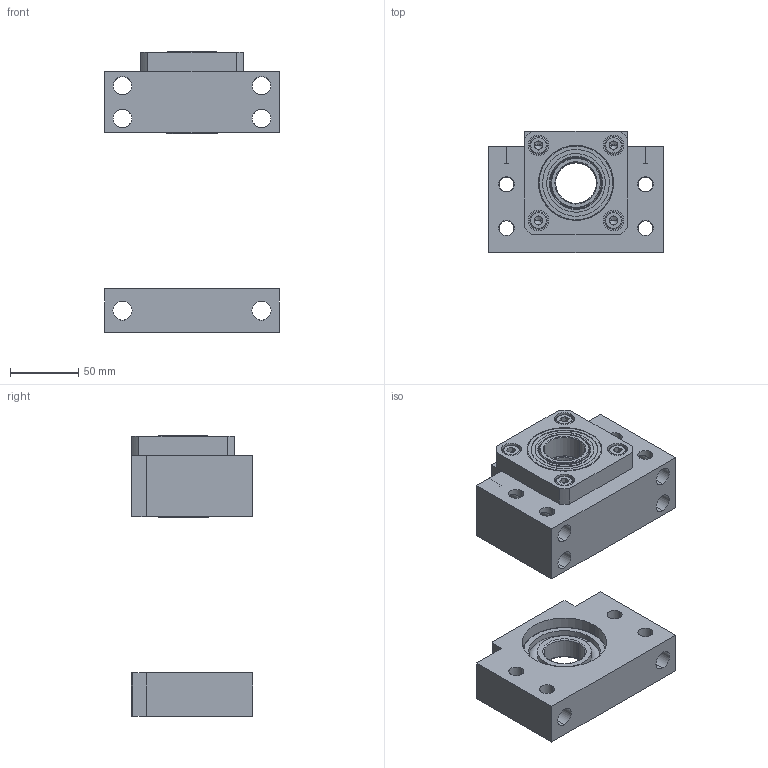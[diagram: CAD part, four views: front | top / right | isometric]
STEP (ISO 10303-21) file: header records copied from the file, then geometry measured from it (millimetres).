
FILE_DESCRIPTION (( 'STEP AP203' ), '1' );
FILE_NAME ('MANCAL SUP 30 - BK-BF.STEP', '2024-04-01T20:25:07', ( '' ), ( '' ), 'SwSTEP 2.0', 'SolidWorks 2019', '' );
FILE_SCHEMA (( 'CONFIG_CONTROL_DESIGN' ));
Length unit declared in the file: millimetre
Products named in the file (12): TAMPA_BK 30; MANCAL SUP 30 - BK-BF; BLOCO_BF_ SUP_30; RETENTOR; MANCAL_BF 30 _MONTADO; MANCAL_BK 30 _MONTADO; socket head cap screw_din_DIN 912 M8 x 16 --- 16N; BLOCO_BK_ SUP_30; ANEL_ESPAÇADOR; angular contact ball bearing_68_din_DIN 628 - 7206B - 12,SI,NC,12_68; ANEL_ESPAÇADOR - TAMPA; radial ball bearing_68_din_DIN 625 - 6206 - 12,SI,NC,12_68
Assembly tree (16 placements, depth 3):
  MANCAL SUP 30 - BK-BF
    MANCAL_BK 30 _MONTADO
      BLOCO_BK_ SUP_30
      angular contact ball bearing_68_din_DIN 628 - 7206B - 12,SI,NC,12_68  x2
      ANEL_ESPAÇADOR
      ANEL_ESPAÇADOR - TAMPA
      RETENTOR  x2
      TAMPA_BK 30
      socket head cap screw_din_DIN 912 M8 x 16 --- 16N  x4
    MANCAL_BF 30 _MONTADO
      BLOCO_BF_ SUP_30
      radial ball bearing_68_din_DIN 625 - 6206 - 12,SI,NC,12_68
Bounding box: 128 x 89 x 206.08 mm (x, y, z)
Volume: 668131.2 mm3; surface area: 181733.4 mm2
Topology: 14 solids, 14 shells, 441 faces, 1058 edges, 644 vertices
Faces by surface type: cylinder 188, plane 129, torus 84, cone 40
Entity records: 12568 total; most frequent: CARTESIAN_POINT 3710, DIRECTION 1652, ORIENTED_EDGE 1500, EDGE_CURVE 750, AXIS2_PLACEMENT_3D 679, VERTEX_POINT 473, EDGE_LOOP 377, CIRCLE 360
